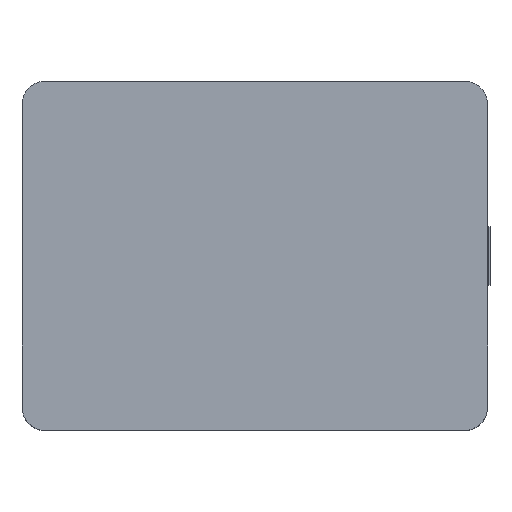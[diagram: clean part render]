
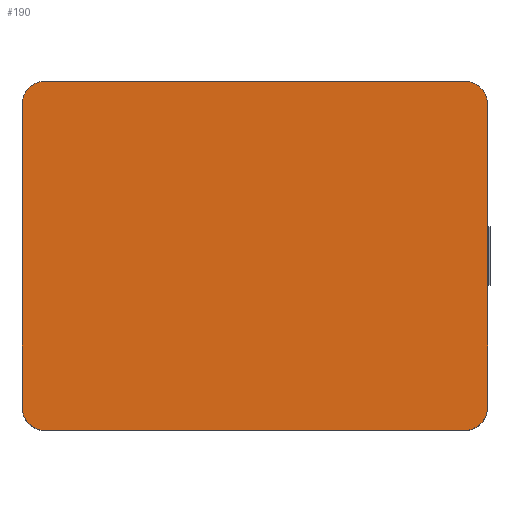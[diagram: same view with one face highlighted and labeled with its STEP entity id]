
A CAD part, top view. The second image highlights one B-rep face of the part: STEP entity #190.
In plain terms, the highlighted planar face has unit normal (0, 0, 1).
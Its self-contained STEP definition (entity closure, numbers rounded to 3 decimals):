
#43 = EDGE_CURVE('',#44,#46,#48,.T.);
#44 = VERTEX_POINT('',#45);
#45 = CARTESIAN_POINT('',(-20.,-13.,10.));
#46 = VERTEX_POINT('',#47);
#47 = CARTESIAN_POINT('',(-20.,13.,10.));
#48 = SURFACE_CURVE('',#49,(#53,#65),.PCURVE_S1.);
#49 = LINE('',#50,#51);
#50 = CARTESIAN_POINT('',(-20.,-15.,10.));
#51 = VECTOR('',#52,1.);
#52 = DIRECTION('',(0.,1.,0.));
#53 = PCURVE('',#54,#59);
#54 = PLANE('',#55);
#55 = AXIS2_PLACEMENT_3D('',#56,#57,#58);
#56 = CARTESIAN_POINT('',(-20.,-15.,-10.));
#57 = DIRECTION('',(1.,0.,0.));
#58 = DIRECTION('',(0.,0.,1.));
#59 = DEFINITIONAL_REPRESENTATION('',(#60),#64);
#60 = LINE('',#61,#62);
#61 = CARTESIAN_POINT('',(20.,0.));
#62 = VECTOR('',#63,1.);
#63 = DIRECTION('',(0.,-1.));
#64 = ( GEOMETRIC_REPRESENTATION_CONTEXT(2) 
PARAMETRIC_REPRESENTATION_CONTEXT() REPRESENTATION_CONTEXT('2D SPACE',''
  ) );
#65 = PCURVE('',#66,#71);
#66 = PLANE('',#67);
#67 = AXIS2_PLACEMENT_3D('',#68,#69,#70);
#68 = CARTESIAN_POINT('',(-20.,-15.,10.));
#69 = DIRECTION('',(0.,0.,1.));
#70 = DIRECTION('',(1.,0.,0.));
#71 = DEFINITIONAL_REPRESENTATION('',(#72),#76);
#72 = LINE('',#73,#74);
#73 = CARTESIAN_POINT('',(0.,0.));
#74 = VECTOR('',#75,1.);
#75 = DIRECTION('',(0.,1.));
#76 = ( GEOMETRIC_REPRESENTATION_CONTEXT(2) 
PARAMETRIC_REPRESENTATION_CONTEXT() REPRESENTATION_CONTEXT('2D SPACE',''
  ) );
#94 = CYLINDRICAL_SURFACE('',#95,2.);
#95 = AXIS2_PLACEMENT_3D('',#96,#97,#98);
#96 = CARTESIAN_POINT('',(-18.,-13.,-10.));
#97 = DIRECTION('',(0.,0.,1.));
#98 = DIRECTION('',(-1.,-0.,0.));
#148 = CYLINDRICAL_SURFACE('',#149,2.);
#149 = AXIS2_PLACEMENT_3D('',#150,#151,#152);
#150 = CARTESIAN_POINT('',(-18.,13.,-10.));
#151 = DIRECTION('',(0.,0.,1.));
#152 = DIRECTION('',(-1.,-0.,0.));
#190 = ADVANCED_FACE('',(#191),#66,.T.);
#191 = FACE_BOUND('',#192,.T.);
#192 = EDGE_LOOP('',(#193,#194,#218,#246,#279,#307,#336,#364));
#193 = ORIENTED_EDGE('',*,*,#43,.F.);
#194 = ORIENTED_EDGE('',*,*,#195,.T.);
#195 = EDGE_CURVE('',#44,#196,#198,.T.);
#196 = VERTEX_POINT('',#197);
#197 = CARTESIAN_POINT('',(-18.,-15.,10.));
#198 = SURFACE_CURVE('',#199,(#204,#211),.PCURVE_S1.);
#199 = CIRCLE('',#200,2.);
#200 = AXIS2_PLACEMENT_3D('',#201,#202,#203);
#201 = CARTESIAN_POINT('',(-18.,-13.,10.));
#202 = DIRECTION('',(0.,0.,1.));
#203 = DIRECTION('',(0.,-1.,0.));
#204 = PCURVE('',#66,#205);
#205 = DEFINITIONAL_REPRESENTATION('',(#206),#210);
#206 = CIRCLE('',#207,2.);
#207 = AXIS2_PLACEMENT_2D('',#208,#209);
#208 = CARTESIAN_POINT('',(2.,2.));
#209 = DIRECTION('',(0.,-1.));
#210 = ( GEOMETRIC_REPRESENTATION_CONTEXT(2) 
PARAMETRIC_REPRESENTATION_CONTEXT() REPRESENTATION_CONTEXT('2D SPACE',''
  ) );
#211 = PCURVE('',#94,#212);
#212 = DEFINITIONAL_REPRESENTATION('',(#213),#217);
#213 = LINE('',#214,#215);
#214 = CARTESIAN_POINT('',(-4.712,20.));
#215 = VECTOR('',#216,1.);
#216 = DIRECTION('',(1.,0.));
#217 = ( GEOMETRIC_REPRESENTATION_CONTEXT(2) 
PARAMETRIC_REPRESENTATION_CONTEXT() REPRESENTATION_CONTEXT('2D SPACE',''
  ) );
#218 = ORIENTED_EDGE('',*,*,#219,.T.);
#219 = EDGE_CURVE('',#196,#220,#222,.T.);
#220 = VERTEX_POINT('',#221);
#221 = CARTESIAN_POINT('',(18.,-15.,10.));
#222 = SURFACE_CURVE('',#223,(#227,#234),.PCURVE_S1.);
#223 = LINE('',#224,#225);
#224 = CARTESIAN_POINT('',(-20.,-15.,10.));
#225 = VECTOR('',#226,1.);
#226 = DIRECTION('',(1.,0.,0.));
#227 = PCURVE('',#66,#228);
#228 = DEFINITIONAL_REPRESENTATION('',(#229),#233);
#229 = LINE('',#230,#231);
#230 = CARTESIAN_POINT('',(0.,0.));
#231 = VECTOR('',#232,1.);
#232 = DIRECTION('',(1.,0.));
#233 = ( GEOMETRIC_REPRESENTATION_CONTEXT(2) 
PARAMETRIC_REPRESENTATION_CONTEXT() REPRESENTATION_CONTEXT('2D SPACE',''
  ) );
#234 = PCURVE('',#235,#240);
#235 = PLANE('',#236);
#236 = AXIS2_PLACEMENT_3D('',#237,#238,#239);
#237 = CARTESIAN_POINT('',(-20.,-15.,-10.));
#238 = DIRECTION('',(0.,1.,0.));
#239 = DIRECTION('',(0.,0.,1.));
#240 = DEFINITIONAL_REPRESENTATION('',(#241),#245);
#241 = LINE('',#242,#243);
#242 = CARTESIAN_POINT('',(20.,0.));
#243 = VECTOR('',#244,1.);
#244 = DIRECTION('',(0.,1.));
#245 = ( GEOMETRIC_REPRESENTATION_CONTEXT(2) 
PARAMETRIC_REPRESENTATION_CONTEXT() REPRESENTATION_CONTEXT('2D SPACE',''
  ) );
#246 = ORIENTED_EDGE('',*,*,#247,.F.);
#247 = EDGE_CURVE('',#248,#220,#250,.T.);
#248 = VERTEX_POINT('',#249);
#249 = CARTESIAN_POINT('',(20.,-13.,10.));
#250 = SURFACE_CURVE('',#251,(#256,#267),.PCURVE_S1.);
#251 = CIRCLE('',#252,2.);
#252 = AXIS2_PLACEMENT_3D('',#253,#254,#255);
#253 = CARTESIAN_POINT('',(18.,-13.,10.));
#254 = DIRECTION('',(-0.,-0.,-1.));
#255 = DIRECTION('',(0.,-1.,0.));
#256 = PCURVE('',#66,#257);
#257 = DEFINITIONAL_REPRESENTATION('',(#258),#266);
#258 = ( BOUNDED_CURVE() B_SPLINE_CURVE(2,(#259,#260,#261,#262,#263,#264
,#265),.UNSPECIFIED.,.T.,.F.) B_SPLINE_CURVE_WITH_KNOTS((1,2,2,2,2,1),(
    -2.094,0.,2.094,4.189,6.283,
8.378),.UNSPECIFIED.) CURVE() GEOMETRIC_REPRESENTATION_ITEM() 
RATIONAL_B_SPLINE_CURVE((1.,0.5,1.,0.5,1.,0.5,1.)) REPRESENTATION_ITEM(
  '') );
#259 = CARTESIAN_POINT('',(38.,0.));
#260 = CARTESIAN_POINT('',(34.536,0.));
#261 = CARTESIAN_POINT('',(36.268,3.));
#262 = CARTESIAN_POINT('',(38.,6.));
#263 = CARTESIAN_POINT('',(39.732,3.));
#264 = CARTESIAN_POINT('',(41.464,0.));
#265 = CARTESIAN_POINT('',(38.,0.));
#266 = ( GEOMETRIC_REPRESENTATION_CONTEXT(2) 
PARAMETRIC_REPRESENTATION_CONTEXT() REPRESENTATION_CONTEXT('2D SPACE',''
  ) );
#267 = PCURVE('',#268,#273);
#268 = CYLINDRICAL_SURFACE('',#269,2.);
#269 = AXIS2_PLACEMENT_3D('',#270,#271,#272);
#270 = CARTESIAN_POINT('',(18.,-13.,-10.));
#271 = DIRECTION('',(0.,0.,1.));
#272 = DIRECTION('',(1.,0.,-0.));
#273 = DEFINITIONAL_REPRESENTATION('',(#274),#278);
#274 = LINE('',#275,#276);
#275 = CARTESIAN_POINT('',(4.712,20.));
#276 = VECTOR('',#277,1.);
#277 = DIRECTION('',(-1.,0.));
#278 = ( GEOMETRIC_REPRESENTATION_CONTEXT(2) 
PARAMETRIC_REPRESENTATION_CONTEXT() REPRESENTATION_CONTEXT('2D SPACE',''
  ) );
#279 = ORIENTED_EDGE('',*,*,#280,.T.);
#280 = EDGE_CURVE('',#248,#281,#283,.T.);
#281 = VERTEX_POINT('',#282);
#282 = CARTESIAN_POINT('',(20.,13.,10.));
#283 = SURFACE_CURVE('',#284,(#288,#295),.PCURVE_S1.);
#284 = LINE('',#285,#286);
#285 = CARTESIAN_POINT('',(20.,-15.,10.));
#286 = VECTOR('',#287,1.);
#287 = DIRECTION('',(0.,1.,0.));
#288 = PCURVE('',#66,#289);
#289 = DEFINITIONAL_REPRESENTATION('',(#290),#294);
#290 = LINE('',#291,#292);
#291 = CARTESIAN_POINT('',(40.,0.));
#292 = VECTOR('',#293,1.);
#293 = DIRECTION('',(0.,1.));
#294 = ( GEOMETRIC_REPRESENTATION_CONTEXT(2) 
PARAMETRIC_REPRESENTATION_CONTEXT() REPRESENTATION_CONTEXT('2D SPACE',''
  ) );
#295 = PCURVE('',#296,#301);
#296 = PLANE('',#297);
#297 = AXIS2_PLACEMENT_3D('',#298,#299,#300);
#298 = CARTESIAN_POINT('',(20.,-15.,-10.));
#299 = DIRECTION('',(1.,0.,0.));
#300 = DIRECTION('',(0.,0.,1.));
#301 = DEFINITIONAL_REPRESENTATION('',(#302),#306);
#302 = LINE('',#303,#304);
#303 = CARTESIAN_POINT('',(20.,0.));
#304 = VECTOR('',#305,1.);
#305 = DIRECTION('',(0.,-1.));
#306 = ( GEOMETRIC_REPRESENTATION_CONTEXT(2) 
PARAMETRIC_REPRESENTATION_CONTEXT() REPRESENTATION_CONTEXT('2D SPACE',''
  ) );
#307 = ORIENTED_EDGE('',*,*,#308,.T.);
#308 = EDGE_CURVE('',#281,#309,#311,.T.);
#309 = VERTEX_POINT('',#310);
#310 = CARTESIAN_POINT('',(18.,15.,10.));
#311 = SURFACE_CURVE('',#312,(#317,#324),.PCURVE_S1.);
#312 = CIRCLE('',#313,2.);
#313 = AXIS2_PLACEMENT_3D('',#314,#315,#316);
#314 = CARTESIAN_POINT('',(18.,13.,10.));
#315 = DIRECTION('',(0.,0.,1.));
#316 = DIRECTION('',(0.,-1.,0.));
#317 = PCURVE('',#66,#318);
#318 = DEFINITIONAL_REPRESENTATION('',(#319),#323);
#319 = CIRCLE('',#320,2.);
#320 = AXIS2_PLACEMENT_2D('',#321,#322);
#321 = CARTESIAN_POINT('',(38.,28.));
#322 = DIRECTION('',(0.,-1.));
#323 = ( GEOMETRIC_REPRESENTATION_CONTEXT(2) 
PARAMETRIC_REPRESENTATION_CONTEXT() REPRESENTATION_CONTEXT('2D SPACE',''
  ) );
#324 = PCURVE('',#325,#330);
#325 = CYLINDRICAL_SURFACE('',#326,2.);
#326 = AXIS2_PLACEMENT_3D('',#327,#328,#329);
#327 = CARTESIAN_POINT('',(18.,13.,-10.));
#328 = DIRECTION('',(0.,0.,1.));
#329 = DIRECTION('',(1.,0.,-0.));
#330 = DEFINITIONAL_REPRESENTATION('',(#331),#335);
#331 = LINE('',#332,#333);
#332 = CARTESIAN_POINT('',(-1.571,20.));
#333 = VECTOR('',#334,1.);
#334 = DIRECTION('',(1.,0.));
#335 = ( GEOMETRIC_REPRESENTATION_CONTEXT(2) 
PARAMETRIC_REPRESENTATION_CONTEXT() REPRESENTATION_CONTEXT('2D SPACE',''
  ) );
#336 = ORIENTED_EDGE('',*,*,#337,.F.);
#337 = EDGE_CURVE('',#338,#309,#340,.T.);
#338 = VERTEX_POINT('',#339);
#339 = CARTESIAN_POINT('',(-18.,15.,10.));
#340 = SURFACE_CURVE('',#341,(#345,#352),.PCURVE_S1.);
#341 = LINE('',#342,#343);
#342 = CARTESIAN_POINT('',(-20.,15.,10.));
#343 = VECTOR('',#344,1.);
#344 = DIRECTION('',(1.,0.,0.));
#345 = PCURVE('',#66,#346);
#346 = DEFINITIONAL_REPRESENTATION('',(#347),#351);
#347 = LINE('',#348,#349);
#348 = CARTESIAN_POINT('',(0.,30.));
#349 = VECTOR('',#350,1.);
#350 = DIRECTION('',(1.,0.));
#351 = ( GEOMETRIC_REPRESENTATION_CONTEXT(2) 
PARAMETRIC_REPRESENTATION_CONTEXT() REPRESENTATION_CONTEXT('2D SPACE',''
  ) );
#352 = PCURVE('',#353,#358);
#353 = PLANE('',#354);
#354 = AXIS2_PLACEMENT_3D('',#355,#356,#357);
#355 = CARTESIAN_POINT('',(-20.,15.,-10.));
#356 = DIRECTION('',(0.,1.,0.));
#357 = DIRECTION('',(0.,0.,1.));
#358 = DEFINITIONAL_REPRESENTATION('',(#359),#363);
#359 = LINE('',#360,#361);
#360 = CARTESIAN_POINT('',(20.,0.));
#361 = VECTOR('',#362,1.);
#362 = DIRECTION('',(0.,1.));
#363 = ( GEOMETRIC_REPRESENTATION_CONTEXT(2) 
PARAMETRIC_REPRESENTATION_CONTEXT() REPRESENTATION_CONTEXT('2D SPACE',''
  ) );
#364 = ORIENTED_EDGE('',*,*,#365,.F.);
#365 = EDGE_CURVE('',#46,#338,#366,.T.);
#366 = SURFACE_CURVE('',#367,(#372,#383),.PCURVE_S1.);
#367 = CIRCLE('',#368,2.);
#368 = AXIS2_PLACEMENT_3D('',#369,#370,#371);
#369 = CARTESIAN_POINT('',(-18.,13.,10.));
#370 = DIRECTION('',(-0.,-0.,-1.));
#371 = DIRECTION('',(0.,-1.,0.));
#372 = PCURVE('',#66,#373);
#373 = DEFINITIONAL_REPRESENTATION('',(#374),#382);
#374 = ( BOUNDED_CURVE() B_SPLINE_CURVE(2,(#375,#376,#377,#378,#379,#380
,#381),.UNSPECIFIED.,.T.,.F.) B_SPLINE_CURVE_WITH_KNOTS((1,2,2,2,2,1),(
    -2.094,0.,2.094,4.189,6.283,
8.378),.UNSPECIFIED.) CURVE() GEOMETRIC_REPRESENTATION_ITEM() 
RATIONAL_B_SPLINE_CURVE((1.,0.5,1.,0.5,1.,0.5,1.)) REPRESENTATION_ITEM(
  '') );
#375 = CARTESIAN_POINT('',(2.,26.));
#376 = CARTESIAN_POINT('',(-1.464,26.));
#377 = CARTESIAN_POINT('',(0.268,29.));
#378 = CARTESIAN_POINT('',(2.,32.));
#379 = CARTESIAN_POINT('',(3.732,29.));
#380 = CARTESIAN_POINT('',(5.464,26.));
#381 = CARTESIAN_POINT('',(2.,26.));
#382 = ( GEOMETRIC_REPRESENTATION_CONTEXT(2) 
PARAMETRIC_REPRESENTATION_CONTEXT() REPRESENTATION_CONTEXT('2D SPACE',''
  ) );
#383 = PCURVE('',#148,#384);
#384 = DEFINITIONAL_REPRESENTATION('',(#385),#389);
#385 = LINE('',#386,#387);
#386 = CARTESIAN_POINT('',(1.571,20.));
#387 = VECTOR('',#388,1.);
#388 = DIRECTION('',(-1.,0.));
#389 = ( GEOMETRIC_REPRESENTATION_CONTEXT(2) 
PARAMETRIC_REPRESENTATION_CONTEXT() REPRESENTATION_CONTEXT('2D SPACE',''
  ) );
